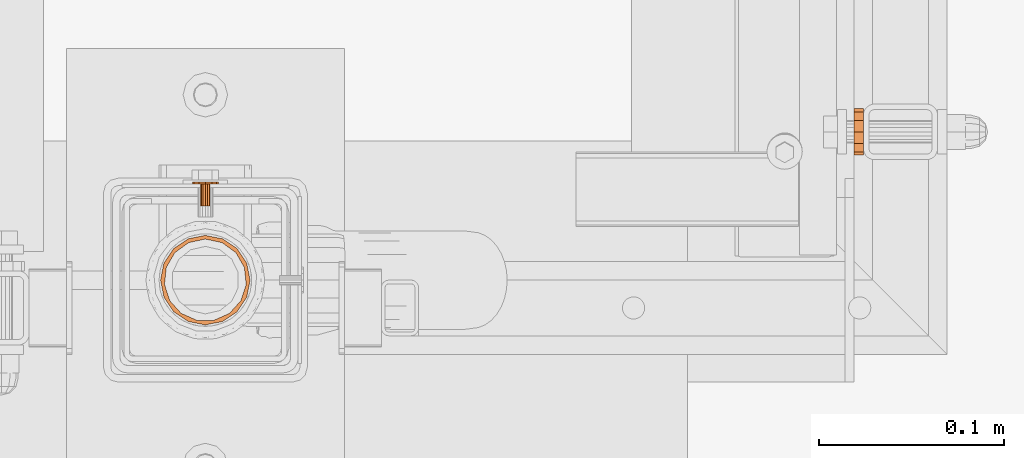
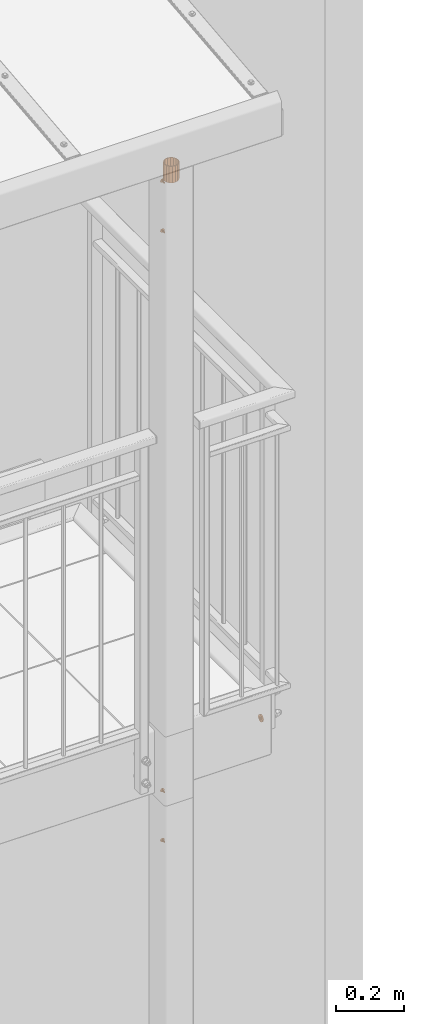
# One storey, part 129 of 162: 6 proxies.
"""IFC2X3 building model written with IfcOpenShell, lengths in millimetres."""

from ifc_helpers import new_model, entity, si_unit, converted_unit, origin_with_axes, place, context, project, spatial, faceted_brep, material, element, save


model = new_model("IFC2X3")

# Units and contexts
model_context = context("Model", 3, precision=1e-09, world=origin_with_axes())
ifc_project = project(units=[si_unit("LENGTHUNIT", "METRE", prefix="MILLI"), si_unit("AREAUNIT", "SQUARE_METRE"), si_unit("VOLUMEUNIT", "CUBIC_METRE"), converted_unit("PLANEANGLEUNIT", "DEGREE", entity("IfcPlaneAngleMeasure", 0.01745329), si_unit("PLANEANGLEUNIT", "RADIAN"), dimensions=[0, 0, 0, 0, 0, 0, 0])], contexts=[model_context])

# Site, building, storey
site_placement = place(None, origin_with_axes())
site = spatial("IfcSite", under=ifc_project, at=site_placement, Name="Hermannstra?e 1a, 60318 Frankfurt", CompositionType="ELEMENT")
building_placement = place(site_placement, origin_with_axes())
building = spatial("IfcBuilding", under=site, at=building_placement, Name="Struktur 1", CompositionType="ELEMENT")
storey_placement = place(building_placement, origin_with_axes())
storey = spatial("IfcBuildingStorey", under=building, at=storey_placement, Name="Default Storey", CompositionType="ELEMENT", Elevation=0.0)

# Proxies
ifc_material_1 = material(Name="Kein")
proxy_1_placement = place(None, origin_with_axes())
element("IfcBuildingElementProxy", 1, at=proxy_1_placement, inside=storey, material=ifc_material_1, ObjectType="-", context=model_context, shape_type="Brep", body=[
    faceted_brep([(5828.30936482, 1599.784056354, 15090.749), (5828.30936482, 1604.359373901, 15086.173682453), (5828.30936482, 1610.609373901, 15084.499), (5828.30936482, 1616.859373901, 15086.173682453), (5828.30936482, 1621.434691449, 15090.749), (5828.30936482, 1623.109373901, 15096.999), (5828.30936482, 1621.434691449, 15103.249), (5828.30936482, 1616.859373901, 15107.824317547), (5828.30936482, 1610.609373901, 15109.499), (5828.30936482, 1604.359373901, 15107.824317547), (5828.30936482, 1599.784056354, 15103.249), (5828.30936482, 1598.109373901, 15096.999), (5828.30936482, 1610.609373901, 15090.999), (5828.30936482, 1607.609373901, 15091.802847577), (5828.30936482, 1605.413221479, 15093.999), (5828.30936482, 1604.609373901, 15096.999), (5828.30936482, 1605.413221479, 15099.999), (5828.30936482, 1607.609373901, 15102.195152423), (5828.30936482, 1610.609373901, 15102.999), (5828.30936482, 1613.609373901, 15102.195152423), (5828.30936482, 1615.805526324, 15099.999), (5828.30936482, 1616.609373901, 15096.999), (5828.30936482, 1615.805526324, 15093.999), (5828.30936482, 1613.609373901, 15091.802847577), (5823.30936482, 1599.784056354, 15090.749), (5823.30936482, 1604.359373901, 15086.173682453), (5823.30936482, 1598.109373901, 15096.999), (5823.30936482, 1599.784056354, 15103.249), (5823.30936482, 1604.359373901, 15107.824317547), (5823.30936482, 1610.609373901, 15109.499), (5823.30936482, 1616.859373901, 15107.824317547), (5823.30936482, 1621.434691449, 15103.249), (5823.30936482, 1623.109373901, 15096.999), (5823.30936482, 1621.434691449, 15090.749), (5823.30936482, 1616.859373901, 15086.173682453), (5823.30936482, 1610.609373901, 15084.499), (5823.30936482, 1605.413221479, 15099.999), (5823.30936482, 1604.609373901, 15096.999), (5823.30936482, 1605.413221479, 15093.999), (5823.30936482, 1607.609373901, 15091.802847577), (5823.30936482, 1610.609373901, 15090.999), (5823.30936482, 1613.609373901, 15091.802847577), (5823.30936482, 1615.805526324, 15093.999), (5823.30936482, 1616.609373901, 15096.999), (5823.30936482, 1615.805526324, 15099.999), (5823.30936482, 1613.609373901, 15102.195152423), (5823.30936482, 1610.609373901, 15102.999), (5823.30936482, 1607.609373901, 15102.195152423)], [[[0, 1, 2, 3, 4, 5, 6, 7, 8, 9, 10, 11], [12, 13, 14, 15, 16, 17, 18, 19, 20, 21, 22, 23]], [[0, 24, 25, 1]], [[24, 26, 27, 28, 29, 30, 31, 32, 33, 34, 35, 25], [36, 37, 38, 39, 40, 41, 42, 43, 44, 45, 46, 47]], [[38, 14, 13, 39]], [[24, 0, 11, 26]], [[14, 38, 37, 15]], [[39, 13, 12, 40]], [[1, 25, 35, 2]], [[26, 11, 10, 27]], [[15, 37, 36, 16]], [[40, 12, 23, 41]], [[2, 35, 34, 3]], [[27, 10, 9, 28]], [[16, 36, 47, 17]], [[22, 42, 41, 23]], [[3, 34, 33, 4]], [[42, 22, 21, 43]], [[28, 9, 8, 29]], [[17, 47, 46, 18]], [[20, 44, 43, 21]], [[4, 33, 32, 5]], [[45, 19, 18, 46]], [[44, 20, 19, 45]], [[29, 8, 7, 30]], [[5, 32, 31, 6]], [[30, 7, 6, 31]]]),
])
proxy_2_placement = place(None, origin_with_axes())
element("IfcBuildingElementProxy", 2, at=proxy_2_placement, inside=storey, material=ifc_material_1, ObjectType="-", context=model_context, shape_type="Brep", body=[
    faceted_brep([(5466.30936482, 1582.609373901, 14796.999), (5466.30936482, 1583.609373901, 14796.999), (5467.247186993, 1583.609373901, 14793.499), (5467.247186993, 1582.609373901, 14793.499), (5467.247186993, 1582.609373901, 14800.499), (5467.247186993, 1583.609373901, 14800.499), (5476.80936482, 1583.609373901, 14803.061177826), (5479.371542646, 1583.609373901, 14800.499), (5480.30936482, 1583.609373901, 14796.999), (5479.371542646, 1583.609373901, 14793.499), (5476.80936482, 1583.609373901, 14790.936822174), (5473.30936482, 1583.609373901, 14789.999), (5469.80936482, 1583.609373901, 14790.936822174), (5469.80936482, 1583.609373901, 14803.061177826), (5473.30936482, 1583.609373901, 14803.999), (5476.80936482, 1582.609373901, 14790.936822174), (5479.371542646, 1582.609373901, 14793.499), (5480.30936482, 1582.609373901, 14796.999), (5479.371542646, 1582.609373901, 14800.499), (5476.80936482, 1582.609373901, 14803.061177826), (5473.30936482, 1582.609373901, 14803.999), (5469.80936482, 1582.609373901, 14803.061177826), (5469.80936482, 1582.609373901, 14790.936822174), (5473.30936482, 1582.609373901, 14789.999)], [[[0, 1, 2, 3]], [[1, 0, 4, 5]], [[6, 7, 8, 9, 10, 11, 12, 2, 1, 5, 13, 14]], [[15, 16, 17, 18, 19, 20, 21, 4, 0, 3, 22, 23]], [[3, 2, 12, 22]], [[5, 4, 21, 13]], [[11, 23, 22, 12]], [[10, 15, 23, 11]], [[13, 21, 20, 14]], [[16, 9, 8, 17]], [[15, 10, 9, 16]], [[17, 8, 7, 18]], [[14, 20, 19, 6]], [[18, 7, 6, 19]]]),
    faceted_brep([(5470.80936482, 1570.609373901, 14796.999), (5470.80936482, 1582.609373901, 14796.999), (5471.14430131, 1582.609373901, 14795.749), (5471.14430131, 1570.609373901, 14795.749), (5471.14430131, 1570.609373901, 14798.249), (5471.14430131, 1582.609373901, 14798.249), (5474.55936482, 1582.609373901, 14799.164063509), (5475.474428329, 1582.609373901, 14798.249), (5475.80936482, 1582.609373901, 14796.999), (5475.474428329, 1582.609373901, 14795.749), (5474.55936482, 1582.609373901, 14794.833936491), (5473.30936482, 1582.609373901, 14794.499), (5472.05936482, 1582.609373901, 14794.833936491), (5472.05936482, 1582.609373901, 14799.164063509), (5473.30936482, 1582.609373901, 14799.499), (5474.55936482, 1570.609373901, 14794.833936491), (5475.474428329, 1570.609373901, 14795.749), (5475.80936482, 1570.609373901, 14796.999), (5475.474428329, 1570.609373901, 14798.249), (5474.55936482, 1570.609373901, 14799.164063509), (5473.30936482, 1570.609373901, 14799.499), (5472.05936482, 1570.609373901, 14799.164063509), (5472.05936482, 1570.609373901, 14794.833936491), (5473.30936482, 1570.609373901, 14794.499)], [[[0, 1, 2, 3]], [[1, 0, 4, 5]], [[6, 7, 8, 9, 10, 11, 12, 2, 1, 5, 13, 14]], [[15, 16, 17, 18, 19, 20, 21, 4, 0, 3, 22, 23]], [[3, 2, 12, 22]], [[5, 4, 21, 13]], [[11, 23, 22, 12]], [[10, 15, 23, 11]], [[13, 21, 20, 14]], [[16, 9, 8, 17]], [[15, 10, 9, 16]], [[17, 8, 7, 18]], [[14, 20, 19, 6]], [[18, 7, 6, 19]]]),
])
proxy_3_placement = place(None, origin_with_axes())
element("IfcBuildingElementProxy", 3, at=proxy_3_placement, inside=storey, material=ifc_material_1, ObjectType="-", context=model_context, shape_type="Brep", body=[
    faceted_brep([(5466.30936482, 1582.609373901, 14976.999), (5466.30936482, 1583.609373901, 14976.999), (5467.247186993, 1583.609373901, 14973.499), (5467.247186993, 1582.609373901, 14973.499), (5467.247186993, 1582.609373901, 14980.499), (5467.247186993, 1583.609373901, 14980.499), (5476.80936482, 1583.609373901, 14983.061177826), (5479.371542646, 1583.609373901, 14980.499), (5480.30936482, 1583.609373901, 14976.999), (5479.371542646, 1583.609373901, 14973.499), (5476.80936482, 1583.609373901, 14970.936822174), (5473.30936482, 1583.609373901, 14969.999), (5469.80936482, 1583.609373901, 14970.936822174), (5469.80936482, 1583.609373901, 14983.061177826), (5473.30936482, 1583.609373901, 14983.999), (5476.80936482, 1582.609373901, 14970.936822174), (5479.371542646, 1582.609373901, 14973.499), (5480.30936482, 1582.609373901, 14976.999), (5479.371542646, 1582.609373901, 14980.499), (5476.80936482, 1582.609373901, 14983.061177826), (5473.30936482, 1582.609373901, 14983.999), (5469.80936482, 1582.609373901, 14983.061177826), (5469.80936482, 1582.609373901, 14970.936822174), (5473.30936482, 1582.609373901, 14969.999)], [[[0, 1, 2, 3]], [[1, 0, 4, 5]], [[6, 7, 8, 9, 10, 11, 12, 2, 1, 5, 13, 14]], [[15, 16, 17, 18, 19, 20, 21, 4, 0, 3, 22, 23]], [[3, 2, 12, 22]], [[5, 4, 21, 13]], [[11, 23, 22, 12]], [[10, 15, 23, 11]], [[13, 21, 20, 14]], [[16, 9, 8, 17]], [[15, 10, 9, 16]], [[17, 8, 7, 18]], [[14, 20, 19, 6]], [[18, 7, 6, 19]]]),
    faceted_brep([(5470.80936482, 1570.609373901, 14976.999), (5470.80936482, 1582.609373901, 14976.999), (5471.14430131, 1582.609373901, 14975.749), (5471.14430131, 1570.609373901, 14975.749), (5471.14430131, 1570.609373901, 14978.249), (5471.14430131, 1582.609373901, 14978.249), (5474.55936482, 1582.609373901, 14979.164063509), (5475.474428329, 1582.609373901, 14978.249), (5475.80936482, 1582.609373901, 14976.999), (5475.474428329, 1582.609373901, 14975.749), (5474.55936482, 1582.609373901, 14974.833936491), (5473.30936482, 1582.609373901, 14974.499), (5472.05936482, 1582.609373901, 14974.833936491), (5472.05936482, 1582.609373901, 14979.164063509), (5473.30936482, 1582.609373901, 14979.499), (5474.55936482, 1570.609373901, 14974.833936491), (5475.474428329, 1570.609373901, 14975.749), (5475.80936482, 1570.609373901, 14976.999), (5475.474428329, 1570.609373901, 14978.249), (5474.55936482, 1570.609373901, 14979.164063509), (5473.30936482, 1570.609373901, 14979.499), (5472.05936482, 1570.609373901, 14979.164063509), (5472.05936482, 1570.609373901, 14974.833936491), (5473.30936482, 1570.609373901, 14974.499)], [[[0, 1, 2, 3]], [[1, 0, 4, 5]], [[6, 7, 8, 9, 10, 11, 12, 2, 1, 5, 13, 14]], [[15, 16, 17, 18, 19, 20, 21, 4, 0, 3, 22, 23]], [[3, 2, 12, 22]], [[5, 4, 21, 13]], [[11, 23, 22, 12]], [[10, 15, 23, 11]], [[13, 21, 20, 14]], [[16, 9, 8, 17]], [[15, 10, 9, 16]], [[17, 8, 7, 18]], [[14, 20, 19, 6]], [[18, 7, 6, 19]]]),
])
ifc_material_2 = material(Name="S235JR")
proxy_4_placement = place(None, origin_with_axes())
element("IfcBuildingElementProxy", 4, at=proxy_4_placement, inside=storey, material=ifc_material_2, ObjectType="-", context=model_context, shape_type="Brep", body=[
    faceted_brep([(5497.45936482, 1530.609373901, 17217.0), (5497.45936482, 1530.609373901, 17277.0), (5495.62105553, 1521.36756901, 17277.0), (5495.62105553, 1521.36756901, 17217.0), (5482.551169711, 1508.297683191, 17277.0), (5490.385993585, 1513.532745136, 17277.0), (5495.62105553, 1539.851178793, 17277.0), (5490.385993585, 1547.686002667, 17277.0), (5482.551169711, 1552.921064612, 17277.0), (5473.30936482, 1554.759373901, 17277.0), (5464.067559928, 1552.921064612, 17277.0), (5456.232736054, 1547.686002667, 17277.0), (5450.997674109, 1539.851178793, 17277.0), (5449.15936482, 1530.609373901, 17277.0), (5450.997674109, 1521.36756901, 17277.0), (5456.232736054, 1513.532745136, 17277.0), (5464.067559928, 1508.297683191, 17277.0), (5473.30936482, 1506.459373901, 17277.0), (5492.491827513, 1519.534373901, 17277.0), (5486.328808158, 1512.689647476, 17277.0), (5477.914608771, 1508.943404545, 17277.0), (5468.704120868, 1508.943404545, 17277.0), (5460.289921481, 1512.689647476, 17277.0), (5454.126902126, 1519.534373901, 17277.0), (5451.280704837, 1528.29406844, 17277.0), (5452.243462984, 1537.454100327, 17277.0), (5456.848706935, 1545.430616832, 17277.0), (5464.300148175, 1550.844405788, 17277.0), (5473.30936482, 1552.759373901, 17277.0), (5482.318581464, 1550.844405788, 17277.0), (5489.770022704, 1545.430616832, 17277.0), (5494.375266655, 1537.454100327, 17277.0), (5495.338024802, 1528.29406844, 17277.0), (5495.338024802, 1528.29406844, 17217.0), (5492.491827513, 1519.534373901, 17217.0), (5490.385993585, 1547.686002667, 17217.0), (5495.62105553, 1539.851178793, 17217.0), (5490.385993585, 1513.532745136, 17217.0), (5482.551169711, 1508.297683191, 17217.0), (5473.30936482, 1506.459373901, 17217.0), (5464.067559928, 1508.297683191, 17217.0), (5456.232736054, 1513.532745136, 17217.0), (5450.997674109, 1521.36756901, 17217.0), (5449.15936482, 1530.609373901, 17217.0), (5450.997674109, 1539.851178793, 17217.0), (5456.232736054, 1547.686002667, 17217.0), (5464.067559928, 1552.921064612, 17217.0), (5473.30936482, 1554.759373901, 17217.0), (5482.551169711, 1552.921064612, 17217.0), (5494.375266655, 1537.454100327, 17217.0), (5489.770022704, 1545.430616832, 17217.0), (5482.318581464, 1550.844405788, 17217.0), (5473.30936482, 1552.759373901, 17217.0), (5464.300148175, 1550.844405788, 17217.0), (5456.848706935, 1545.430616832, 17217.0), (5452.243462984, 1537.454100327, 17217.0), (5451.280704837, 1528.29406844, 17217.0), (5454.126902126, 1519.534373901, 17217.0), (5460.289921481, 1512.689647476, 17217.0), (5468.704120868, 1508.943404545, 17217.0), (5477.914608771, 1508.943404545, 17217.0), (5486.328808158, 1512.689647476, 17217.0)], [[[0, 1, 2, 3]], [[4, 5, 2, 1, 6, 7, 8, 9, 10, 11, 12, 13, 14, 15, 16, 17], [18, 19, 20, 21, 22, 23, 24, 25, 26, 27, 28, 29, 30, 31, 32]], [[32, 33, 34, 18]], [[35, 36, 0, 3, 37, 38, 39, 40, 41, 42, 43, 44, 45, 46, 47, 48], [49, 50, 51, 52, 53, 54, 55, 56, 57, 58, 59, 60, 61, 34, 33]], [[33, 32, 31, 49]], [[1, 0, 36, 6]], [[3, 2, 5, 37]], [[18, 34, 61, 19]], [[49, 31, 30, 50]], [[6, 36, 35, 7]], [[37, 5, 4, 38]], [[19, 61, 60, 20]], [[50, 30, 29, 51]], [[7, 35, 48, 8]], [[38, 4, 17, 39]], [[8, 48, 47, 9]], [[20, 60, 59, 21]], [[51, 29, 28, 52]], [[9, 47, 46, 10]], [[39, 17, 16, 40]], [[21, 59, 58, 22]], [[52, 28, 27, 53]], [[10, 46, 45, 11]], [[40, 16, 15, 41]], [[22, 58, 57, 23]], [[53, 27, 26, 54]], [[11, 45, 44, 12]], [[41, 15, 14, 42]], [[23, 57, 56, 24]], [[13, 43, 42, 14]], [[12, 44, 43, 13]], [[54, 26, 25, 55]], [[24, 56, 55, 25]]]),
])
proxy_5_placement = place(None, origin_with_axes())
element("IfcBuildingElementProxy", 5, at=proxy_5_placement, inside=storey, material=ifc_material_1, ObjectType="-", context=model_context, shape_type="Brep", body=[
    faceted_brep([(5466.30936482, 1582.609373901, 16997.0), (5466.30936482, 1583.609373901, 16997.0), (5467.247186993, 1583.609373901, 16993.5), (5467.247186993, 1582.609373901, 16993.5), (5467.247186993, 1582.609373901, 17000.5), (5467.247186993, 1583.609373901, 17000.5), (5476.80936482, 1583.609373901, 17003.062177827), (5479.371542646, 1583.609373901, 17000.5), (5480.30936482, 1583.609373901, 16997.0), (5479.371542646, 1583.609373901, 16993.5), (5476.80936482, 1583.609373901, 16990.937822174), (5473.30936482, 1583.609373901, 16990.0), (5469.80936482, 1583.609373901, 16990.937822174), (5469.80936482, 1583.609373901, 17003.062177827), (5473.30936482, 1583.609373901, 17004.0), (5476.80936482, 1582.609373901, 16990.937822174), (5479.371542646, 1582.609373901, 16993.5), (5480.30936482, 1582.609373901, 16997.0), (5479.371542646, 1582.609373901, 17000.5), (5476.80936482, 1582.609373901, 17003.062177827), (5473.30936482, 1582.609373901, 17004.0), (5469.80936482, 1582.609373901, 17003.062177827), (5469.80936482, 1582.609373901, 16990.937822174), (5473.30936482, 1582.609373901, 16990.0)], [[[0, 1, 2, 3]], [[1, 0, 4, 5]], [[6, 7, 8, 9, 10, 11, 12, 2, 1, 5, 13, 14]], [[15, 16, 17, 18, 19, 20, 21, 4, 0, 3, 22, 23]], [[3, 2, 12, 22]], [[5, 4, 21, 13]], [[11, 23, 22, 12]], [[10, 15, 23, 11]], [[13, 21, 20, 14]], [[16, 9, 8, 17]], [[15, 10, 9, 16]], [[17, 8, 7, 18]], [[14, 20, 19, 6]], [[18, 7, 6, 19]]]),
    faceted_brep([(5470.80936482, 1570.609373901, 16997.0), (5470.80936482, 1582.609373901, 16997.0), (5471.14430131, 1582.609373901, 16995.75), (5471.14430131, 1570.609373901, 16995.75), (5471.14430131, 1570.609373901, 16998.25), (5471.14430131, 1582.609373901, 16998.25), (5474.55936482, 1582.609373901, 16999.165063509), (5475.474428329, 1582.609373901, 16998.25), (5475.80936482, 1582.609373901, 16997.0), (5475.474428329, 1582.609373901, 16995.75), (5474.55936482, 1582.609373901, 16994.834936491), (5473.30936482, 1582.609373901, 16994.5), (5472.05936482, 1582.609373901, 16994.834936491), (5472.05936482, 1582.609373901, 16999.165063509), (5473.30936482, 1582.609373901, 16999.5), (5474.55936482, 1570.609373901, 16994.834936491), (5475.474428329, 1570.609373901, 16995.75), (5475.80936482, 1570.609373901, 16997.0), (5475.474428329, 1570.609373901, 16998.25), (5474.55936482, 1570.609373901, 16999.165063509), (5473.30936482, 1570.609373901, 16999.5), (5472.05936482, 1570.609373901, 16999.165063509), (5472.05936482, 1570.609373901, 16994.834936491), (5473.30936482, 1570.609373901, 16994.5)], [[[0, 1, 2, 3]], [[1, 0, 4, 5]], [[6, 7, 8, 9, 10, 11, 12, 2, 1, 5, 13, 14]], [[15, 16, 17, 18, 19, 20, 21, 4, 0, 3, 22, 23]], [[3, 2, 12, 22]], [[5, 4, 21, 13]], [[11, 23, 22, 12]], [[10, 15, 23, 11]], [[13, 21, 20, 14]], [[16, 9, 8, 17]], [[15, 10, 9, 16]], [[17, 8, 7, 18]], [[14, 20, 19, 6]], [[18, 7, 6, 19]]]),
])
proxy_6_placement = place(None, origin_with_axes())
element("IfcBuildingElementProxy", 6, at=proxy_6_placement, inside=storey, material=ifc_material_1, ObjectType="-", context=model_context, shape_type="Brep", body=[
    faceted_brep([(5466.30936482, 1582.609373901, 17177.0), (5466.30936482, 1583.609373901, 17177.0), (5467.247186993, 1583.609373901, 17173.5), (5467.247186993, 1582.609373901, 17173.5), (5467.247186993, 1582.609373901, 17180.5), (5467.247186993, 1583.609373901, 17180.5), (5476.80936482, 1583.609373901, 17183.062177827), (5479.371542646, 1583.609373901, 17180.5), (5480.30936482, 1583.609373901, 17177.0), (5479.371542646, 1583.609373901, 17173.5), (5476.80936482, 1583.609373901, 17170.937822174), (5473.30936482, 1583.609373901, 17170.0), (5469.80936482, 1583.609373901, 17170.937822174), (5469.80936482, 1583.609373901, 17183.062177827), (5473.30936482, 1583.609373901, 17184.0), (5476.80936482, 1582.609373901, 17170.937822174), (5479.371542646, 1582.609373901, 17173.5), (5480.30936482, 1582.609373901, 17177.0), (5479.371542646, 1582.609373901, 17180.5), (5476.80936482, 1582.609373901, 17183.062177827), (5473.30936482, 1582.609373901, 17184.0), (5469.80936482, 1582.609373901, 17183.062177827), (5469.80936482, 1582.609373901, 17170.937822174), (5473.30936482, 1582.609373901, 17170.0)], [[[0, 1, 2, 3]], [[1, 0, 4, 5]], [[6, 7, 8, 9, 10, 11, 12, 2, 1, 5, 13, 14]], [[15, 16, 17, 18, 19, 20, 21, 4, 0, 3, 22, 23]], [[3, 2, 12, 22]], [[5, 4, 21, 13]], [[11, 23, 22, 12]], [[10, 15, 23, 11]], [[13, 21, 20, 14]], [[16, 9, 8, 17]], [[15, 10, 9, 16]], [[17, 8, 7, 18]], [[14, 20, 19, 6]], [[18, 7, 6, 19]]]),
    faceted_brep([(5470.80936482, 1570.609373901, 17177.0), (5470.80936482, 1582.609373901, 17177.0), (5471.14430131, 1582.609373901, 17175.75), (5471.14430131, 1570.609373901, 17175.75), (5471.14430131, 1570.609373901, 17178.25), (5471.14430131, 1582.609373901, 17178.25), (5474.55936482, 1582.609373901, 17179.165063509), (5475.474428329, 1582.609373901, 17178.25), (5475.80936482, 1582.609373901, 17177.0), (5475.474428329, 1582.609373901, 17175.75), (5474.55936482, 1582.609373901, 17174.834936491), (5473.30936482, 1582.609373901, 17174.5), (5472.05936482, 1582.609373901, 17174.834936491), (5472.05936482, 1582.609373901, 17179.165063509), (5473.30936482, 1582.609373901, 17179.5), (5474.55936482, 1570.609373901, 17174.834936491), (5475.474428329, 1570.609373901, 17175.75), (5475.80936482, 1570.609373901, 17177.0), (5475.474428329, 1570.609373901, 17178.25), (5474.55936482, 1570.609373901, 17179.165063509), (5473.30936482, 1570.609373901, 17179.5), (5472.05936482, 1570.609373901, 17179.165063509), (5472.05936482, 1570.609373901, 17174.834936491), (5473.30936482, 1570.609373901, 17174.5)], [[[0, 1, 2, 3]], [[1, 0, 4, 5]], [[6, 7, 8, 9, 10, 11, 12, 2, 1, 5, 13, 14]], [[15, 16, 17, 18, 19, 20, 21, 4, 0, 3, 22, 23]], [[3, 2, 12, 22]], [[5, 4, 21, 13]], [[11, 23, 22, 12]], [[10, 15, 23, 11]], [[13, 21, 20, 14]], [[16, 9, 8, 17]], [[15, 10, 9, 16]], [[17, 8, 7, 18]], [[14, 20, 19, 6]], [[18, 7, 6, 19]]]),
])

save(model, "model.ifc")
